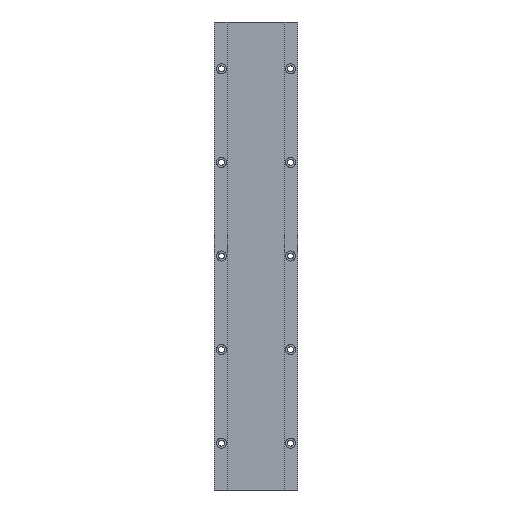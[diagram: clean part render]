
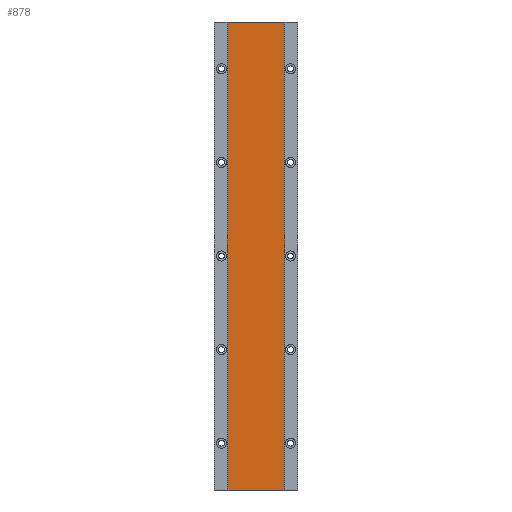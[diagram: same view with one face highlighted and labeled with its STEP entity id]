
A CAD part, left-side view. The second image highlights one B-rep face of the part: STEP entity #878.
In plain terms, the highlighted planar face has unit normal (-1, 0, 0).
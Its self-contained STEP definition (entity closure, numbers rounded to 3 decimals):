
#50 = LINE ( 'NONE', #544, #1836 ) ;
#69 = CARTESIAN_POINT ( 'NONE',  ( -7.8, -26., 420. ) ) ;
#96 = EDGE_CURVE ( 'NONE', #1195, #1169, #1797, .T. ) ;
#103 = CARTESIAN_POINT ( 'NONE',  ( -7.8, -26., 420. ) ) ;
#135 = LINE ( 'NONE', #702, #1416 ) ;
#157 = PLANE ( 'NONE',  #1040 ) ;
#170 = LINE ( 'NONE', #1688, #260 ) ;
#260 = VECTOR ( 'NONE', #1566, 1000. ) ;
#413 = DIRECTION ( 'NONE',  ( 0., 0., -1. ) ) ;
#434 = DIRECTION ( 'NONE',  ( 0., 0., 1. ) ) ;
#444 = VERTEX_POINT ( 'NONE', #1091 ) ;
#544 = CARTESIAN_POINT ( 'NONE',  ( -7.8, 0., 0. ) ) ;
#581 = EDGE_CURVE ( 'NONE', #444, #805, #135, .T. ) ;
#697 = DIRECTION ( 'NONE',  ( 0., 0., -1. ) ) ;
#702 = CARTESIAN_POINT ( 'NONE',  ( -7.8, 26., 420. ) ) ;
#760 = VECTOR ( 'NONE', #697, 1000. ) ;
#805 = VERTEX_POINT ( 'NONE', #1742 ) ;
#870 = DIRECTION ( 'NONE',  ( -1., 0., 0. ) ) ;
#878 = ADVANCED_FACE ( 'NONE', ( #1019 ), #157, .T. ) ;
#1019 = FACE_OUTER_BOUND ( 'NONE', #1216, .T. ) ;
#1032 = ORIENTED_EDGE ( 'NONE', *, *, #1587, .F. ) ;
#1040 = AXIS2_PLACEMENT_3D ( 'NONE', #1448, #870, #434 ) ;
#1091 = CARTESIAN_POINT ( 'NONE',  ( -7.8, 26., 420. ) ) ;
#1169 = VERTEX_POINT ( 'NONE', #1525 ) ;
#1195 = VERTEX_POINT ( 'NONE', #69 ) ;
#1216 = EDGE_LOOP ( 'NONE', ( #1032, #1840, #1447, #1650 ) ) ;
#1416 = VECTOR ( 'NONE', #413, 1000. ) ;
#1447 = ORIENTED_EDGE ( 'NONE', *, *, #1679, .T. ) ;
#1448 = CARTESIAN_POINT ( 'NONE',  ( -7.8, 0., 420. ) ) ;
#1525 = CARTESIAN_POINT ( 'NONE',  ( -7.8, -26., 0. ) ) ;
#1566 = DIRECTION ( 'NONE',  ( 0., 1., 0. ) ) ;
#1587 = EDGE_CURVE ( 'NONE', #1169, #805, #50, .T. ) ;
#1650 = ORIENTED_EDGE ( 'NONE', *, *, #581, .T. ) ;
#1679 = EDGE_CURVE ( 'NONE', #1195, #444, #170, .T. ) ;
#1688 = CARTESIAN_POINT ( 'NONE',  ( -7.8, 0., 420. ) ) ;
#1742 = CARTESIAN_POINT ( 'NONE',  ( -7.8, 26., 0. ) ) ;
#1797 = LINE ( 'NONE', #103, #760 ) ;
#1836 = VECTOR ( 'NONE', #1845, 1000. ) ;
#1840 = ORIENTED_EDGE ( 'NONE', *, *, #96, .F. ) ;
#1845 = DIRECTION ( 'NONE',  ( 0., 1., 0. ) ) ;
